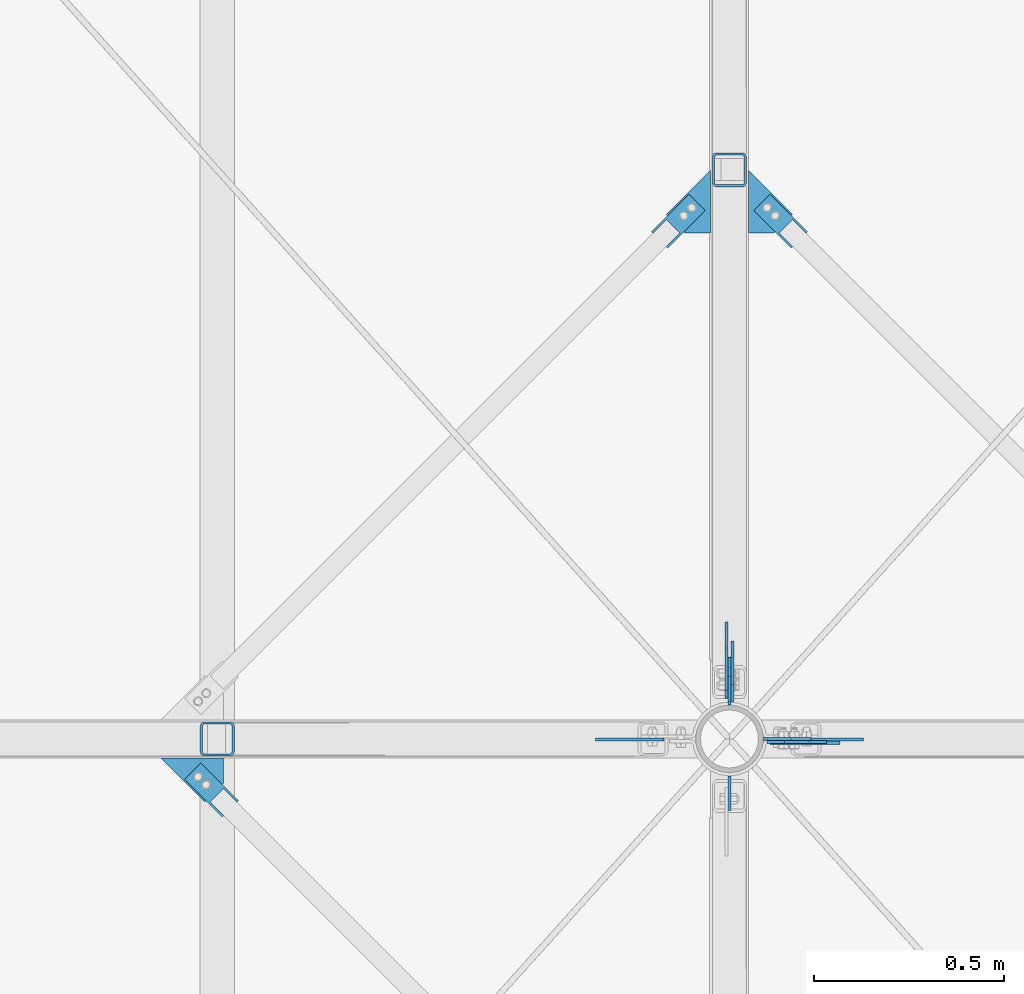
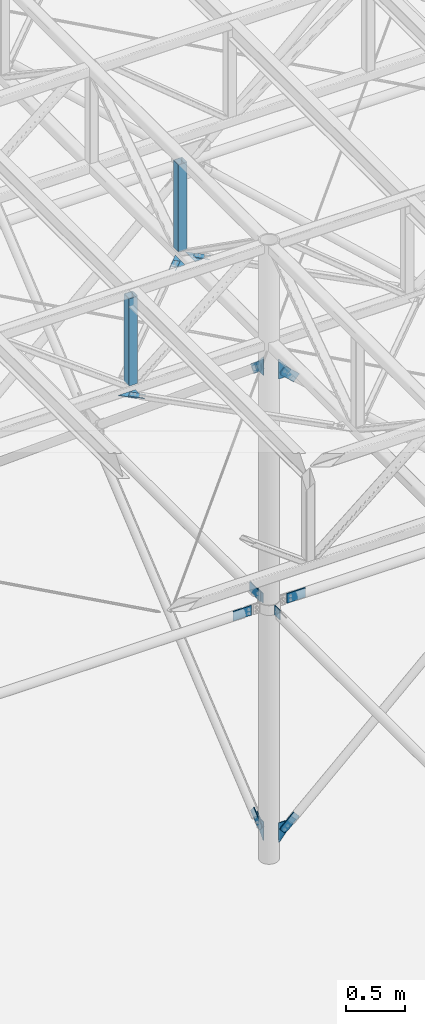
# One storey, part 76 of 132: 29 discrete accessories, 19 elements without a shape of their own.
"""IFC2X3 building model written with IfcOpenShell, lengths in millimetres."""

from ifc_helpers import new_model, si_unit, frame, origin_with_axes, origin_2d_with_axis, place, context, subcontext, project, spatial, polyline, rectangle, hollow_rectangle, outline, extrude, boolean, clip, halfspace, material, type_object, element, aggregate, save


model = new_model("IFC2X3")

# Units and contexts
model_context = context("Model", 3, precision=1e-05, world=origin_with_axes())
body_context = subcontext(model_context, "Body", "Model", "MODEL_VIEW")
ifc_project = project(units=[si_unit("LENGTHUNIT", "METRE", prefix="MILLI"), si_unit("AREAUNIT", "SQUARE_METRE"), si_unit("VOLUMEUNIT", "CUBIC_METRE"), si_unit("MASSUNIT", "GRAM", prefix="KILO"), si_unit("TIMEUNIT", "SECOND"), si_unit("PLANEANGLEUNIT", "RADIAN"), si_unit("SOLIDANGLEUNIT", "STERADIAN"), si_unit("THERMODYNAMICTEMPERATUREUNIT", "DEGREE_CELSIUS"), si_unit("LUMINOUSINTENSITYUNIT", "LUMEN")], contexts=[model_context])

# Site, building, storey
site_placement = place(None, origin_with_axes())
site = spatial("IfcSite", under=ifc_project, at=site_placement, Name="Budowa", CompositionType="ELEMENT")
building_placement = place(site_placement, origin_with_axes())
building = spatial("IfcBuilding", under=site, at=building_placement, Name="Undefined", CompositionType="ELEMENT")
storey_placement = place(building_placement, origin_with_axes())
storey = spatial("IfcBuildingStorey", under=building, at=storey_placement, Name="Undefined", CompositionType="ELEMENT", Elevation=0.0)

# Assembly, discrete accessory
assembly_1_placement = place(storey_placement, origin_with_axes())
assembly_1 = element("IfcElementAssembly", 1, at=assembly_1_placement, inside=storey, Name="Steel Assembly", AssemblyPlace="NOTDEFINED", PredefinedType="RIGID_FRAME")
ifc_material = material(Name="STEEL/S235")
discrete_accessory_type_1 = type_object("IfcDiscreteAccessoryType", Name="BLACHA")
discrete_accessory_1_placement = place(assembly_1_placement, frame((9416.9999997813, 12120.951207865, 7723.25167813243), z_axis=(0.0, 0.639165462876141, -0.769069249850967), x_axis=(0.0, 0.769069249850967, 0.639165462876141)))
discrete_accessory_1 = element("IfcDiscreteAccessory", 2, at=discrete_accessory_1_placement, type_object=discrete_accessory_type_1, material=ifc_material, Name="BLACHA", ObjectType="BL8*86", context=body_context, shape_type="CSG", body=[
    boolean("DIFFERENCE", boolean("DIFFERENCE", extrude(rectangle(XDim=8.0, YDim=86.0, at=origin_2d_with_axis()), frame((190.000000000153, -3.63797880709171e-12, 3.30513394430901e-13), z_axis=(-1.0, 0.0, 0.0), x_axis=(0.0, -1.0, 0.0)), (0.0, 0.0, 1.0), 190.0), extrude(outline(polyline([(0.0, 0.0), (20.0000000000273, -3.63797880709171e-12), (5.45696821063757e-12, 20.0000000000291), (0.0, 0.0)])), frame((0.0, 6.50000013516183, -43.0), z_axis=(0.0, -1.0, 0.0), x_axis=(1.0, 0.0, 0.0)), (0.0, 0.0, 1.0), 13.0)), extrude(outline(polyline([(0.0, 0.0), (20.0000000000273, -3.63797880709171e-12), (5.45696821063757e-12, 20.0000000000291), (0.0, 0.0)])), frame((3.63797880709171e-12, -6.49999986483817, 43.0), z_axis=(0.0, 1.0, 0.0), x_axis=(1.0, 0.0, 0.0)), (0.0, 0.0, 1.0), 13.0)),
])
aggregate(assembly_1, [discrete_accessory_1])

assembly_2_placement = place(storey_placement, origin_with_axes())
assembly_2 = element("IfcElementAssembly", 3, at=assembly_2_placement, inside=storey, Name="Steel Assembly", AssemblyPlace="NOTDEFINED", PredefinedType="RIGID_FRAME")
discrete_accessory_2_placement = place(assembly_2_placement, frame((9425.00000235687, 12088.9000000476, 7811.00054931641), z_axis=(1.0, 0.0, 0.0), x_axis=(0.0, 0.0, -1.0)))
discrete_accessory_2 = element("IfcDiscreteAccessory", 4, at=discrete_accessory_2_placement, type_object=discrete_accessory_type_1, material=ifc_material, Name="BLACHA", ObjectType="BL8*126", context=body_context, shape_type="SweptSolid", body=[
    extrude(outline(polyline([(0.0, 0.0), (188.000686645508, 0.0), (188.000686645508, 10.0), (60.999870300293, 126.000648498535), (3.18323145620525e-09, 76.0014114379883), (0.0, 0.0)])), frame((0.0, 0.0, -4.0), z_axis=(0.0, 0.0, 1.0), x_axis=(1.0, 0.0, 0.0)), (0.0, 0.0, 1.0), 8.0),
])

assembly_3_placement = place(storey_placement, origin_with_axes())
assembly_3 = element("IfcElementAssembly", 5, at=assembly_3_placement, inside=storey, Name="Steel Assembly", AssemblyPlace="NOTDEFINED", PredefinedType="RIGID_FRAME")
discrete_accessory_3_placement = place(assembly_3_placement, frame((9416.99999977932, 12120.9512117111, 12508.7489949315), z_axis=(0.0, -0.63916553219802, -0.769069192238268), x_axis=(0.0, 0.769069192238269, -0.639165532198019)))
discrete_accessory_3 = element("IfcDiscreteAccessory", 6, at=discrete_accessory_3_placement, type_object=discrete_accessory_type_1, material=ifc_material, Name="BLACHA", ObjectType="BL8*86", context=body_context, shape_type="CSG", body=[
    boolean("DIFFERENCE", boolean("DIFFERENCE", extrude(rectangle(XDim=8.0, YDim=86.0, at=origin_2d_with_axis()), frame((190.000000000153, -3.63797880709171e-12, 3.30513394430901e-13), z_axis=(-1.0, 0.0, 0.0), x_axis=(0.0, -1.0, 0.0)), (0.0, 0.0, 1.0), 190.0), extrude(outline(polyline([(0.0, 0.0), (20.0000000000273, -3.63797880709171e-12), (5.45696821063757e-12, 20.0000000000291), (0.0, 0.0)])), frame((0.0, 6.50000013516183, -43.0), z_axis=(0.0, -1.0, 0.0), x_axis=(1.0, 0.0, 0.0)), (0.0, 0.0, 1.0), 13.0)), extrude(outline(polyline([(0.0, 0.0), (20.0000000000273, -3.63797880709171e-12), (5.45696821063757e-12, 20.0000000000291), (0.0, 0.0)])), frame((3.63797880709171e-12, -6.49999986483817, 43.0), z_axis=(0.0, 1.0, 0.0), x_axis=(1.0, 0.0, 0.0)), (0.0, 0.0, 1.0), 13.0)),
])
aggregate(assembly_3, [discrete_accessory_3])

# Discrete accessory
discrete_accessory_4_placement = place(assembly_2_placement, frame((9425.00000235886, 12088.9000000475, 12608.9999313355), z_axis=(1.0, 0.0, 0.0), x_axis=(0.0, 0.0, -1.0)))
discrete_accessory_4 = element("IfcDiscreteAccessory", 7, at=discrete_accessory_4_placement, type_object=discrete_accessory_type_1, material=ifc_material, Name="BLACHA", ObjectType="BL8*126", context=body_context, shape_type="SweptSolid", body=[
    extrude(outline(polyline([(0.0, 0.0), (187.999725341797, 0.0), (187.999725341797, 76.0014114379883), (126.999855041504, 126.000648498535), (0.0, 10.0), (0.0, 0.0)])), frame((0.0, 0.0, -4.0), z_axis=(0.0, 0.0, 1.0), x_axis=(1.0, 0.0, 0.0)), (0.0, 0.0, 1.0), 8.0),
])

discrete_accessory_5_placement = place(assembly_2_placement, frame((9513.89999968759, 11999.9990001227, 7825.00048828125), z_axis=(0.0, -1.0, 0.0), x_axis=(0.0, 0.0, -1.0)))
discrete_accessory_5 = element("IfcDiscreteAccessory", 8, at=discrete_accessory_5_placement, type_object=discrete_accessory_type_1, material=ifc_material, Name="BLACHA", ObjectType="BL8*126", context=body_context, shape_type="SweptSolid", body=[
    extrude(outline(polyline([(0.0, 0.0), (203.000061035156, 0.0), (203.000061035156, 10.0), (57.9996109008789, 126.000587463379), (-9.02218744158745e-10, 73.001091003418), (0.0, 0.0)])), frame((0.0, 0.0, -4.0), z_axis=(0.0, 0.0, 1.0), x_axis=(1.0, 0.0, 0.0)), (0.0, 0.0, 1.0), 8.0),
])

discrete_accessory_6_placement = place(assembly_2_placement, frame((9513.8999996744, 11999.9990001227, 12610.0003356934), z_axis=(0.0, -1.0, 0.0), x_axis=(0.0, 0.0, -1.0)))
discrete_accessory_6 = element("IfcDiscreteAccessory", 9, at=discrete_accessory_6_placement, type_object=discrete_accessory_type_1, material=ifc_material, Name="BLACHA", ObjectType="BL8*126", context=body_context, shape_type="SweptSolid", body=[
    extrude(outline(polyline([(0.0, 0.0), (203.000061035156, 0.0), (203.000061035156, 73.001091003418), (144.99951171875, 126.000587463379), (0.0, 10.0), (0.0, 0.0)])), frame((0.0, 0.0, -4.0), z_axis=(0.0, 0.0, 1.0), x_axis=(1.0, 0.0, 0.0)), (0.0, 0.0, 1.0), 8.0),
])

# Assembly, discrete accessory
assembly_4_placement = place(storey_placement, origin_with_axes())
assembly_4 = element("IfcElementAssembly", 10, at=assembly_4_placement, inside=storey, Name="Steel Assembly", AssemblyPlace="NOTDEFINED", PredefinedType="RIGID_FRAME")
discrete_accessory_7_placement = place(assembly_4_placement, frame((9547.31003908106, 11989.9999976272, 7734.82673924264), z_axis=(0.67855182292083, 0.0, -0.734552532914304), x_axis=(0.734552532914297, 0.0, 0.678551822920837)))
discrete_accessory_7 = element("IfcDiscreteAccessory", 11, at=discrete_accessory_7_placement, type_object=discrete_accessory_type_1, material=ifc_material, Name="BLACHA", ObjectType="BL8*86", context=body_context, shape_type="CSG", body=[
    boolean("DIFFERENCE", boolean("DIFFERENCE", extrude(rectangle(XDim=8.0, YDim=86.0, at=origin_2d_with_axis()), frame((190.000000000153, -3.63797880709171e-12, 3.30513394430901e-13), z_axis=(-1.0, 0.0, 0.0), x_axis=(0.0, -1.0, 0.0)), (0.0, 0.0, 1.0), 190.0), extrude(outline(polyline([(0.0, 0.0), (20.0000000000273, -3.63797880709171e-12), (5.45696821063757e-12, 20.0000000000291), (0.0, 0.0)])), frame((-1.81898940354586e-12, 6.49999757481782, 42.9999999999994), z_axis=(0.0, -1.0, 0.0), x_axis=(0.0, 0.0, -1.0)), (0.0, 0.0, 1.0), 13.0)), extrude(outline(polyline([(0.0, 0.0), (20.0000000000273, -3.63797880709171e-12), (5.45696821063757e-12, 20.0000000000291), (0.0, 0.0)])), frame((-1.81898940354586e-12, -6.50000242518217, -42.9999999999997), z_axis=(0.0, 1.0, 0.0), x_axis=(0.0, 0.0, 1.0)), (0.0, 0.0, 1.0), 13.0)),
])
aggregate(assembly_4, [discrete_accessory_7])

assembly_5_placement = place(storey_placement, origin_with_axes())
assembly_5 = element("IfcElementAssembly", 12, at=assembly_5_placement, inside=storey, Name="Steel Assembly", AssemblyPlace="NOTDEFINED", PredefinedType="RIGID_FRAME")
discrete_accessory_8_placement = place(assembly_5_placement, frame((9547.31003885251, 11989.9999975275, 12497.1740173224), z_axis=(-0.67855182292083, 0.0, -0.734552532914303), x_axis=(0.734552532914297, 0.0, -0.678551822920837)))
discrete_accessory_8 = element("IfcDiscreteAccessory", 13, at=discrete_accessory_8_placement, type_object=discrete_accessory_type_1, material=ifc_material, Name="BLACHA", ObjectType="BL8*86", context=body_context, shape_type="CSG", body=[
    boolean("DIFFERENCE", boolean("DIFFERENCE", extrude(rectangle(XDim=8.0, YDim=86.0, at=origin_2d_with_axis()), frame((190.000000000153, -3.63797880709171e-12, 3.30513394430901e-13), z_axis=(-1.0, 0.0, 0.0), x_axis=(0.0, -1.0, 0.0)), (0.0, 0.0, 1.0), 190.0), extrude(outline(polyline([(0.0, 0.0), (20.0000000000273, -3.63797880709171e-12), (5.45696821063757e-12, 20.0000000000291), (0.0, 0.0)])), frame((-1.81898940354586e-12, 6.49999757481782, 42.9999999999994), z_axis=(0.0, -1.0, 0.0), x_axis=(0.0, 0.0, -1.0)), (0.0, 0.0, 1.0), 13.0)), extrude(outline(polyline([(0.0, 0.0), (20.0000000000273, -3.63797880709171e-12), (5.45696821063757e-12, 20.0000000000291), (0.0, 0.0)])), frame((-1.81898940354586e-12, -6.50000242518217, -42.9999999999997), z_axis=(0.0, 1.0, 0.0), x_axis=(0.0, 0.0, 1.0)), (0.0, 0.0, 1.0), 13.0)),
])
aggregate(assembly_5, [discrete_accessory_8])

assembly_6_placement = place(storey_placement, origin_with_axes())
assembly_6 = element("IfcElementAssembly", 14, at=assembly_6_placement, inside=storey, Name="Steel Assembly", AssemblyPlace="NOTDEFINED", PredefinedType="RIGID_FRAME")
discrete_accessory_9_placement = place(assembly_6_placement, frame((9417.00000277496, 12127.907905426, 10116.0003779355), z_axis=(1.0, 0.0, 0.0), x_axis=(0.0, 1.0, 0.0)))
discrete_accessory_9 = element("IfcDiscreteAccessory", 15, at=discrete_accessory_9_placement, type_object=discrete_accessory_type_1, material=ifc_material, Name="BLACHA", ObjectType="BL8*100", context=body_context, shape_type="SweptSolid", body=[
    extrude(outline(polyline([(0.0, -50.0), (0.0, 50.0), (180.0, 50.0), (180.0, -50.0), (0.0, -50.0)])), frame((0.0, 0.0, -4.0), z_axis=(0.0, 0.0, 1.0), x_axis=(1.0, 0.0, 0.0)), (0.0, 0.0, 1.0), 8.0),
])
aggregate(assembly_6, [discrete_accessory_9])

assembly_7_placement = place(storey_placement, origin_with_axes())
assembly_7 = element("IfcElementAssembly", 16, at=assembly_7_placement, inside=storey, Name="Steel Assembly", AssemblyPlace="NOTDEFINED", PredefinedType="RIGID_FRAME")
discrete_accessory_10_placement = place(assembly_7_placement, frame((9425.00000277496, 12097.9956434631, 10066.0003796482), z_axis=(-1.0, 0.0, 0.0), x_axis=(0.0, 0.0, 1.0)))
discrete_accessory_10 = element("IfcDiscreteAccessory", 17, at=discrete_accessory_10_placement, type_object=discrete_accessory_type_1, material=ifc_material, Name="BLACHA", ObjectType="BL8*90", context=body_context, shape_type="SweptSolid", body=[
    extrude(outline(polyline([(0.0, 0.0), (100.0, 0.0), (100.0, 89.9122619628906), (0.0, 89.9122619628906), (0.0, 0.0)])), frame((0.0, 0.0, -4.0), z_axis=(0.0, 0.0, 1.0), x_axis=(1.0, 0.0, 0.0)), (0.0, 0.0, 1.0), 8.0),
])
aggregate(assembly_7, [discrete_accessory_10])

assembly_8_placement = place(storey_placement, origin_with_axes())
assembly_8 = element("IfcElementAssembly", 18, at=assembly_8_placement, inside=storey, Name="Steel Assembly", AssemblyPlace="NOTDEFINED", PredefinedType="RIGID_FRAME")
discrete_accessory_11_placement = place(assembly_8_placement, frame((9425.00000249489, 11902.0043566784, 10166.0003799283), z_axis=(-1.0, 0.0, 0.0), x_axis=(0.0, 0.0, -1.0)))
discrete_accessory_11 = element("IfcDiscreteAccessory", 19, at=discrete_accessory_11_placement, type_object=discrete_accessory_type_1, material=ifc_material, Name="BLACHA", ObjectType="BL8*90", context=body_context, shape_type="SweptSolid", body=[
    extrude(outline(polyline([(0.0, 0.0), (100.0, 0.0), (100.0, 89.9122619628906), (0.0, 89.9122619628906), (0.0, 0.0)])), frame((0.0, 0.0, -4.0), z_axis=(0.0, 0.0, 1.0), x_axis=(1.0, 0.0, 0.0)), (0.0, 0.0, 1.0), 8.0),
])
aggregate(assembly_8, [discrete_accessory_11])

assembly_9_placement = place(storey_placement, origin_with_axes())
assembly_9 = element("IfcElementAssembly", 20, at=assembly_9_placement, inside=storey, Name="Steel Assembly", AssemblyPlace="NOTDEFINED", PredefinedType="RIGID_FRAME")
discrete_accessory_12_placement = place(assembly_9_placement, frame((9251.86330560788, 11997.9999994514, 10116.0003779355), z_axis=(0.0, 1.0, 0.0), x_axis=(-1.0, 0.0, 0.0)))
discrete_accessory_12 = element("IfcDiscreteAccessory", 21, at=discrete_accessory_12_placement, type_object=discrete_accessory_type_1, material=ifc_material, Name="BLACHA", ObjectType="BL8*100", context=body_context, shape_type="SweptSolid", body=[
    extrude(outline(polyline([(180.0, -50.0), (0.0, -50.0), (0.0, 50.0), (180.0, 50.0), (180.0, -50.0)])), frame((0.0, 0.0, -4.0), z_axis=(0.0, 0.0, 1.0), x_axis=(1.0, 0.0, 0.0)), (0.0, 0.0, 1.0), 8.0),
])
aggregate(assembly_9, [discrete_accessory_12])

assembly_10_placement = place(storey_placement, origin_with_axes())
assembly_10 = element("IfcElementAssembly", 22, at=assembly_10_placement, inside=storey, Name="Steel Assembly", AssemblyPlace="NOTDEFINED", PredefinedType="RIGID_FRAME")
discrete_accessory_13_placement = place(assembly_10_placement, frame((9598.1366940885, 11997.9999994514, 10116.0003779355), z_axis=(0.0, -1.0, 0.0), x_axis=(1.0, 0.0, 0.0)))
discrete_accessory_13 = element("IfcDiscreteAccessory", 23, at=discrete_accessory_13_placement, type_object=discrete_accessory_type_1, material=ifc_material, Name="BLACHA", ObjectType="BL8*100", context=body_context, shape_type="SweptSolid", body=[
    extrude(outline(polyline([(0.0, -50.0), (0.0, 50.0), (180.0, 50.0), (180.0, -50.0), (0.0, -50.0)])), frame((0.0, 0.0, -4.0), z_axis=(0.0, 0.0, 1.0), x_axis=(1.0, 0.0, 0.0)), (0.0, 0.0, 1.0), 8.0),
])
aggregate(assembly_10, [discrete_accessory_13])

assembly_11_placement = place(storey_placement, origin_with_axes())
assembly_11 = element("IfcElementAssembly", 24, at=assembly_11_placement, inside=storey, Name="Steel Assembly", AssemblyPlace="NOTDEFINED", PredefinedType="RIGID_FRAME")
discrete_accessory_14_placement = place(assembly_11_placement, frame((9432.99999966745, 12120.9512077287, 7723.25167860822), z_axis=(0.0, 0.639165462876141, -0.769069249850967), x_axis=(0.0, 0.769069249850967, 0.639165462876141)))
discrete_accessory_14 = element("IfcDiscreteAccessory", 25, at=discrete_accessory_14_placement, type_object=discrete_accessory_type_1, material=ifc_material, Name="BLACHA", ObjectType="BL8*69", context=body_context, shape_type="SweptSolid", body=[
    extrude(rectangle(XDim=8.0, YDim=69.0, at=origin_2d_with_axis()), frame((149.999999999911, 0.0, 0.0), z_axis=(-1.0, 0.0, 0.0), x_axis=(0.0, -1.0, 0.0)), (0.0, 0.0, 1.0), 150.0),
])
aggregate(assembly_11, [discrete_accessory_14])

# Discrete accessory
discrete_accessory_15_placement = place(assembly_2_placement, frame((9424.99999966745, 12088.9000000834, 7811.1548043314), z_axis=(1.0, 0.0, 0.0), x_axis=(0.0, 0.0, -1.0)))
discrete_accessory_15 = element("IfcDiscreteAccessory", 26, at=discrete_accessory_15_placement, type_object=discrete_accessory_type_1, material=ifc_material, Name="BLACHA", ObjectType="BL8*127", context=body_context, shape_type="SweptSolid", body=[
    extrude(outline(polyline([(0.0, 0.0), (165.901336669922, 0.0), (165.901336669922, 10.0), (60.7564697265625, 126.514472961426), (0.0, 76.0204086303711), (0.0, 0.0)])), frame((0.0, 0.0, -4.0), z_axis=(0.0, 0.0, 1.0), x_axis=(1.0, 0.0, 0.0)), (0.0, 0.0, 1.0), 8.0),
])

# Assembly, discrete accessory
assembly_12_placement = place(storey_placement, origin_with_axes())
assembly_12 = element("IfcElementAssembly", 27, at=assembly_12_placement, inside=storey, Name="Steel Assembly", AssemblyPlace="NOTDEFINED", PredefinedType="RIGID_FRAME")
discrete_accessory_16_placement = place(assembly_12_placement, frame((9432.99999994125, 12120.9512117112, 12508.7489949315), z_axis=(0.0, -0.63916553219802, -0.769069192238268), x_axis=(0.0, 0.769069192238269, -0.639165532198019)))
discrete_accessory_16 = element("IfcDiscreteAccessory", 28, at=discrete_accessory_16_placement, type_object=discrete_accessory_type_1, material=ifc_material, Name="BLACHA", ObjectType="BL8*69", context=body_context, shape_type="SweptSolid", body=[
    extrude(rectangle(XDim=8.0, YDim=69.0, at=origin_2d_with_axis()), frame((149.999999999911, 0.0, 0.0), z_axis=(-1.0, 0.0, 0.0), x_axis=(0.0, -1.0, 0.0)), (0.0, 0.0, 1.0), 150.0),
])
aggregate(assembly_12, [discrete_accessory_16])

# Discrete accessory
discrete_accessory_17_placement = place(assembly_2_placement, frame((9424.99999994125, 12088.9000000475, 12586.7472155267), z_axis=(1.0, 0.0, 0.0), x_axis=(0.0, 0.0, -1.0)))
discrete_accessory_17 = element("IfcDiscreteAccessory", 29, at=discrete_accessory_17_placement, type_object=discrete_accessory_type_1, material=ifc_material, Name="BLACHA", ObjectType="BL8*127", context=body_context, shape_type="SweptSolid", body=[
    extrude(outline(polyline([(0.0, 0.0), (165.901336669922, 0.0), (165.901351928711, 76.0204010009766), (105.144889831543, 126.514472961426), (0.0, 10.0), (0.0, 0.0)])), frame((0.0, 0.0, -4.0), z_axis=(0.0, 0.0, 1.0), x_axis=(1.0, 0.0, 0.0)), (0.0, 0.0, 1.0), 8.0),
])

# Assembly, discrete accessory
assembly_13_placement = place(storey_placement, origin_with_axes())
assembly_13 = element("IfcElementAssembly", 30, at=assembly_13_placement, inside=storey, Name="Steel Assembly", AssemblyPlace="NOTDEFINED", PredefinedType="RIGID_FRAME")
discrete_accessory_18_placement = place(assembly_13_placement, frame((9547.31003901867, 11991.9999976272, 7734.82673918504), z_axis=(0.67855182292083, 0.0, -0.734552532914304), x_axis=(0.734552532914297, 0.0, 0.678551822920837)))
discrete_accessory_18 = element("IfcDiscreteAccessory", 31, at=discrete_accessory_18_placement, type_object=discrete_accessory_type_1, material=ifc_material, Name="BLACHA", ObjectType="BL8*69", context=body_context, shape_type="SweptSolid", body=[
    extrude(rectangle(XDim=8.0, YDim=69.0, at=origin_2d_with_axis()), frame((149.999999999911, 0.0, 0.0), z_axis=(-1.0, 0.0, 0.0), x_axis=(0.0, -1.0, 0.0)), (0.0, 0.0, 1.0), 150.0),
])
aggregate(assembly_13, [discrete_accessory_18])

# Discrete accessory
discrete_accessory_19_placement = place(assembly_2_placement, frame((9513.89999962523, 11999.9999976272, 7824.91122862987), z_axis=(0.0, -1.0, 0.0), x_axis=(0.0, 0.0, -1.0)))
discrete_accessory_19 = element("IfcDiscreteAccessory", 32, at=discrete_accessory_19_placement, type_object=discrete_accessory_type_1, material=ifc_material, Name="BLACHA", ObjectType="BL8*126", context=body_context, shape_type="SweptSolid", body=[
    extrude(outline(polyline([(0.0, 0.0), (174.721649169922, 0.0), (174.721649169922, 10.0), (58.0296516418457, 126.322563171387), (0.0, 72.7169723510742), (0.0, 0.0)])), frame((0.0, 0.0, -4.0), z_axis=(0.0, 0.0, 1.0), x_axis=(1.0, 0.0, 0.0)), (0.0, 0.0, 1.0), 8.0),
])

# Assembly, discrete accessory
assembly_14_placement = place(storey_placement, origin_with_axes())
assembly_14 = element("IfcElementAssembly", 33, at=assembly_14_placement, inside=storey, Name="Steel Assembly", AssemblyPlace="NOTDEFINED", PredefinedType="RIGID_FRAME")
discrete_accessory_20_placement = place(assembly_14_placement, frame((9547.31003879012, 11991.9999975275, 12497.17401738), z_axis=(-0.67855182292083, 0.0, -0.734552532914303), x_axis=(0.734552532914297, 0.0, -0.678551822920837)))
discrete_accessory_20 = element("IfcDiscreteAccessory", 34, at=discrete_accessory_20_placement, type_object=discrete_accessory_type_1, material=ifc_material, Name="BLACHA", ObjectType="BL8*69", context=body_context, shape_type="SweptSolid", body=[
    extrude(rectangle(XDim=8.0, YDim=69.0, at=origin_2d_with_axis()), frame((149.999999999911, 0.0, 0.0), z_axis=(-1.0, 0.0, 0.0), x_axis=(0.0, -1.0, 0.0)), (0.0, 0.0, 1.0), 150.0),
])
aggregate(assembly_14, [discrete_accessory_20])

# Discrete accessory
discrete_accessory_21_placement = place(assembly_2_placement, frame((9513.89999961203, 11999.9999975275, 12581.8111792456), z_axis=(0.0, -1.0, 0.0), x_axis=(0.0, 0.0, -1.0)))
discrete_accessory_21 = element("IfcDiscreteAccessory", 35, at=discrete_accessory_21_placement, type_object=discrete_accessory_type_1, material=ifc_material, Name="BLACHA", ObjectType="BL8*126", context=body_context, shape_type="SweptSolid", body=[
    extrude(outline(polyline([(0.0, 0.0), (174.721649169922, 0.0), (174.721649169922, 72.7169723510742), (116.692001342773, 126.322563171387), (0.0, 10.0), (0.0, 0.0)])), frame((0.0, 0.0, -4.0), z_axis=(0.0, 0.0, 1.0), x_axis=(1.0, 0.0, 0.0)), (0.0, 0.0, 1.0), 8.0),
])

aggregate(assembly_2, [discrete_accessory_2, discrete_accessory_4, discrete_accessory_5, discrete_accessory_6, discrete_accessory_15, discrete_accessory_17, discrete_accessory_19, discrete_accessory_21])

# Assembly, discrete accessory
assembly_15_placement = place(storey_placement, origin_with_axes())
assembly_15 = element("IfcElementAssembly", 36, at=assembly_15_placement, inside=storey, Name="Steel Assembly", AssemblyPlace="NOTDEFINED", PredefinedType="RIGID_FRAME")
discrete_accessory_22_placement = place(assembly_15_placement, frame((9630.42135806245, 13336.8050488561, 12830.0), z_axis=(0.0, 0.0, 1.0), x_axis=(-0.707106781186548, 0.707106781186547, 0.0)))
discrete_accessory_22 = element("IfcDiscreteAccessory", 37, at=discrete_accessory_22_placement, type_object=discrete_accessory_type_1, material=ifc_material, Name="BLACHA", ObjectType="BL6*60", context=body_context, shape_type="SweptSolid", body=[
    extrude(outline(polyline([(0.0, 0.0), (139.99999999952, -6.2755134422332e-10), (139.99999999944, 59.9999999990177), (0.0, 60.0), (-8.00355337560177e-11, 54.9999999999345), (49.9999999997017, 54.9999999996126), (49.9999999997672, 4.99999999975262), (-8.73114913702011e-11, 5.00000000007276), (0.0, 0.0)])), frame((0.0, 0.0, -3.0), z_axis=(0.0, 0.0, 1.0), x_axis=(1.0, 0.0, 0.0)), (0.0, 0.0, 1.0), 6.0),
])
aggregate(assembly_15, [discrete_accessory_22])

assembly_16_placement = place(storey_placement, origin_with_axes())
assembly_16 = element("IfcElementAssembly", 38, at=assembly_16_placement, inside=storey, Name="Steel Assembly", AssemblyPlace="NOTDEFINED", PredefinedType="RIGID_FRAME")
discrete_accessory_23_placement = place(assembly_16_placement, frame((9474.99999994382, 13499.2974747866, 12824.0), z_axis=(0.0, 0.0, 1.0), x_axis=(0.0, -1.0, 0.0)))
discrete_accessory_23 = element("IfcDiscreteAccessory", 39, at=discrete_accessory_23_placement, type_object=discrete_accessory_type_1, material=ifc_material, Name="BLACHA", ObjectType="BL6*117", context=body_context, shape_type="SweptSolid", body=[
    extrude(outline(polyline([(0.0, 0.0), (166.027954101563, 0.0), (166.027954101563, 67.0330123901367), (116.530487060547, 116.530487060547), (0.0, 0.0)])), frame((0.0, 0.0, -3.0), z_axis=(0.0, 0.0, 1.0), x_axis=(1.0, 0.0, 0.0)), (0.0, 0.0, 1.0), 6.0),
])

assembly_17_placement = place(storey_placement, origin_with_axes())
assembly_17 = element("IfcElementAssembly", 40, at=assembly_17_placement, inside=storey, Name="Steel Assembly", AssemblyPlace="NOTDEFINED", PredefinedType="RIGID_FRAME")
discrete_accessory_24_placement = place(assembly_17_placement, frame((9262.00504867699, 13294.3786419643, 12830.0), z_axis=(0.0, 0.0, 1.0), x_axis=(0.707106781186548, 0.707106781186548, 0.0)))
discrete_accessory_24 = element("IfcDiscreteAccessory", 41, at=discrete_accessory_24_placement, type_object=discrete_accessory_type_1, material=ifc_material, Name="BLACHA", ObjectType="BL6*60", context=body_context, shape_type="SweptSolid", body=[
    extrude(outline(polyline([(0.0, 0.0), (139.99999999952, -6.2755134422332e-10), (139.99999999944, 59.9999999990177), (0.0, 60.0), (-8.00355337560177e-11, 54.9999999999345), (49.9999999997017, 54.9999999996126), (49.9999999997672, 4.99999999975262), (-8.73114913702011e-11, 5.00000000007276), (0.0, 0.0)])), frame((0.0, 0.0, -3.0), z_axis=(0.0, 0.0, 1.0), x_axis=(1.0, 0.0, 0.0)), (0.0, 0.0, 1.0), 6.0),
])
aggregate(assembly_17, [discrete_accessory_24])

# Discrete accessory
discrete_accessory_25_placement = place(assembly_16_placement, frame((9374.99999994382, 13333.2695168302, 12824.0), z_axis=(0.0, 0.0, 1.0), x_axis=(0.0, 1.0, 0.0)))
discrete_accessory_25 = element("IfcDiscreteAccessory", 42, at=discrete_accessory_25_placement, type_object=discrete_accessory_type_1, material=ifc_material, Name="BLACHA", ObjectType="BL6*117", context=body_context, shape_type="SweptSolid", body=[
    extrude(outline(polyline([(0.0, 0.0), (166.027954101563, 0.0), (49.4974746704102, 116.530487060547), (0.0, 67.0330123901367), (0.0, 0.0)])), frame((0.0, 0.0, -3.0), z_axis=(0.0, 0.0, 1.0), x_axis=(1.0, 0.0, 0.0)), (0.0, 0.0, 1.0), 6.0),
])

# Assembly, discrete accessory
assembly_18_placement = place(storey_placement, origin_with_axes())
assembly_18 = element("IfcElementAssembly", 43, at=assembly_18_placement, inside=storey, Name="Steel Assembly", AssemblyPlace="NOTDEFINED", PredefinedType="RIGID_FRAME")
discrete_accessory_26_placement = place(assembly_18_placement, frame((8130.42135808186, 11837.0050487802, 12830.0), z_axis=(0.0, 0.0, 1.0), x_axis=(-0.707106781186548, 0.707106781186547, 0.0)))
discrete_accessory_26 = element("IfcDiscreteAccessory", 44, at=discrete_accessory_26_placement, type_object=discrete_accessory_type_1, material=ifc_material, Name="BLACHA", ObjectType="BL6*60", context=body_context, shape_type="SweptSolid", body=[
    extrude(outline(polyline([(0.0, 0.0), (139.99999999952, -6.2755134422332e-10), (139.99999999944, 59.9999999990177), (0.0, 60.0), (-8.00355337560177e-11, 54.9999999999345), (49.9999999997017, 54.9999999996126), (49.9999999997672, 4.99999999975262), (-8.73114913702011e-11, 5.00000000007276), (0.0, 0.0)])), frame((0.0, 0.0, -3.0), z_axis=(0.0, 0.0, 1.0), x_axis=(1.0, 0.0, 0.0)), (0.0, 0.0, 1.0), 6.0),
])
aggregate(assembly_18, [discrete_accessory_26])

assembly_19_placement = place(storey_placement, origin_with_axes())
assembly_19 = element("IfcElementAssembly", 45, at=assembly_19_placement, inside=storey, Name="Steel Assembly", AssemblyPlace="NOTDEFINED", PredefinedType="RIGID_FRAME")
discrete_accessory_27_placement = place(assembly_19_placement, frame((8091.53048321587, 11950.000000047, 12824.0), z_axis=(0.0, 0.0, 1.0), x_axis=(-1.0, 0.0, 0.0)))
discrete_accessory_27 = element("IfcDiscreteAccessory", 46, at=discrete_accessory_27_placement, type_object=discrete_accessory_type_1, material=ifc_material, Name="BLACHA", ObjectType="BL6*117", context=body_context, shape_type="SweptSolid", body=[
    extrude(outline(polyline([(0.0, 0.0), (166.027954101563, 0.0), (49.4974746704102, 116.530487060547), (0.0, 67.0330123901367), (0.0, 0.0)])), frame((0.0, 0.0, -3.0), z_axis=(0.0, 0.0, 1.0), x_axis=(1.0, 0.0, 0.0)), (0.0, 0.0, 1.0), 6.0),
])

# Discrete accessory
discrete_accessory_type_2 = type_object("IfcDiscreteAccessoryType", Name="BEAM")
discrete_accessory_28_placement = place(assembly_16_placement, frame((9424.99999994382, 13500.000000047, 13780.0), z_axis=(1.0, 0.0, 0.0), x_axis=(0.0, 0.0, -1.0)))
discrete_accessory_28 = element("IfcDiscreteAccessory", 47, at=discrete_accessory_28_placement, type_object=discrete_accessory_type_2, material=ifc_material, Name="BEAM", ObjectType="SHS90*6", context=body_context, shape_type="Clipping", body=[
    clip(clip(extrude(hollow_rectangle(XDim=90.0, YDim=90.0, WallThickness=6.0, InnerFilletRadius=6.0, OuterFilletRadius=12.0, at=origin_2d_with_axis()), frame((900.0, 0.0, 0.0), z_axis=(-1.0, 0.0, 0.0), x_axis=(0.0, -1.0, 0.0)), (0.0, 0.0, 1.0), 900.0), halfspace(frame((900.0, 0.0, 1000.0), z_axis=(-1.0, 0.0, 0.0), x_axis=(0.0, -1.0, 0.0)), True)), halfspace(frame((0.0, 0.0, 1000.0), z_axis=(1.0, 0.0, 0.0), x_axis=(0.0, 1.0, 0.0)), True)),
])

aggregate(assembly_16, [discrete_accessory_23, discrete_accessory_25, discrete_accessory_28])

discrete_accessory_29_placement = place(assembly_19_placement, frame((8074.99999993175, 12000.000000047, 13780.0), z_axis=(0.0, -1.0, 0.0), x_axis=(0.0, 0.0, -1.0)))
discrete_accessory_29 = element("IfcDiscreteAccessory", 48, at=discrete_accessory_29_placement, type_object=discrete_accessory_type_2, material=ifc_material, Name="BEAM", ObjectType="SHS90*6", context=body_context, shape_type="Clipping", body=[
    clip(clip(extrude(hollow_rectangle(XDim=90.0, YDim=90.0, WallThickness=6.0, InnerFilletRadius=6.0, OuterFilletRadius=12.0, at=origin_2d_with_axis()), frame((900.0, 0.0, 0.0), z_axis=(-1.0, 0.0, 0.0), x_axis=(0.0, -1.0, 0.0)), (0.0, 0.0, 1.0), 900.0), halfspace(frame((900.0, 0.0, 1000.0), z_axis=(-1.0, 0.0, 0.0), x_axis=(0.0, -1.0, 0.0)), True)), halfspace(frame((0.0, 0.0, 1000.0), z_axis=(1.0, 0.0, 0.0), x_axis=(0.0, 1.0, 0.0)), True)),
])

aggregate(assembly_19, [discrete_accessory_27, discrete_accessory_29])

save(model, "model.ifc")
